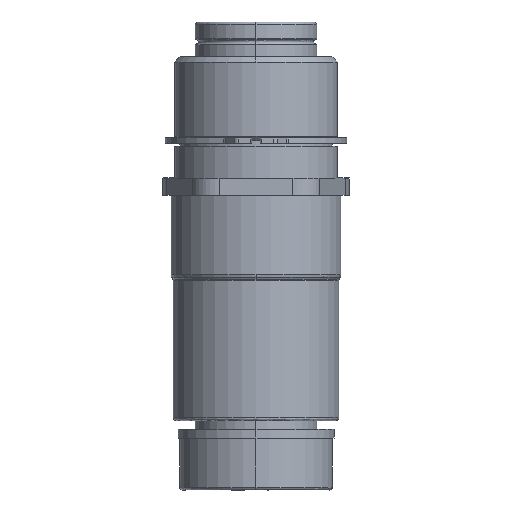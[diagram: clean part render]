
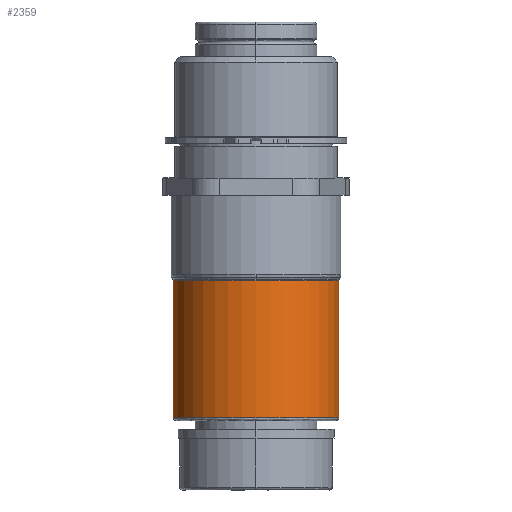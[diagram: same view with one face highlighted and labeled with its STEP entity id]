
A CAD part, left-side view. The second image highlights one B-rep face of the part: STEP entity #2359.
In plain terms, the highlighted cylindrical face has radius 30.353 mm (diameter 60.706 mm), a partial arc.
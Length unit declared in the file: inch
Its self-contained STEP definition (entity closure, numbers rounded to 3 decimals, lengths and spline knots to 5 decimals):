
#35 = CARTESIAN_POINT ( 'NONE',  ( 0., -3.21, 0. ) ) ;
#48 = DIRECTION ( 'NONE',  ( 0., 0., 1. ) ) ;
#52 = ORIENTED_EDGE ( 'NONE', *, *, #4562, .T. ) ;
#241 = CIRCLE ( 'NONE', #3551, 1.195 ) ;
#272 = DIRECTION ( 'NONE',  ( 0., 0., 1. ) ) ;
#438 = DIRECTION ( 'NONE',  ( 0., 1., 0. ) ) ;
#451 = EDGE_CURVE ( 'NONE', #1732, #3844, #3577, .T. ) ;
#792 = CARTESIAN_POINT ( 'NONE',  ( 0., -3.25, 0. ) ) ;
#850 = DIRECTION ( 'NONE',  ( 0., 1., 0. ) ) ;
#915 = VERTEX_POINT ( 'NONE', #4768 ) ;
#943 = LINE ( 'NONE', #1212, #3651 ) ;
#1052 = ORIENTED_EDGE ( 'NONE', *, *, #1263, .F. ) ;
#1077 = VECTOR ( 'NONE', #850, 39.37008 ) ;
#1105 = ORIENTED_EDGE ( 'NONE', *, *, #3089, .T. ) ;
#1212 = CARTESIAN_POINT ( 'NONE',  ( 0., -3.25, 1.195 ) ) ;
#1263 = EDGE_CURVE ( 'NONE', #915, #3844, #2428, .T. ) ;
#1471 = CIRCLE ( 'NONE', #2955, 1.195 ) ;
#1574 = DIRECTION ( 'NONE',  ( 0., 0., -1. ) ) ;
#1682 = AXIS2_PLACEMENT_3D ( 'NONE', #3988, #4056, #272 ) ;
#1732 = VERTEX_POINT ( 'NONE', #3501 ) ;
#1945 = EDGE_CURVE ( 'NONE', #4206, #915, #241, .T. ) ;
#2149 = VERTEX_POINT ( 'NONE', #3545 ) ;
#2317 = FACE_OUTER_BOUND ( 'NONE', #3619, .T. ) ;
#2359 = ADVANCED_FACE ( 'NONE', ( #2317 ), #4554, .T. ) ;
#2428 = LINE ( 'NONE', #3505, #1077 ) ;
#2878 = CARTESIAN_POINT ( 'NONE',  ( 0., -1.225, -1.195 ) ) ;
#2952 = DIRECTION ( 'NONE',  ( 0., 0., 1. ) ) ;
#2955 = AXIS2_PLACEMENT_3D ( 'NONE', #4140, #4869, #2952 ) ;
#2956 = AXIS2_PLACEMENT_3D ( 'NONE', #792, #438, #48 ) ;
#3089 = EDGE_CURVE ( 'NONE', #2149, #1732, #1471, .T. ) ;
#3099 = DIRECTION ( 'NONE',  ( 0., -1., 0. ) ) ;
#3463 = DIRECTION ( 'NONE',  ( 0., 1., 0. ) ) ;
#3501 = CARTESIAN_POINT ( 'NONE',  ( -1.195, -1.225, 0. ) ) ;
#3505 = CARTESIAN_POINT ( 'NONE',  ( 0., -3.25, -1.195 ) ) ;
#3545 = CARTESIAN_POINT ( 'NONE',  ( 0., -1.225, 1.195 ) ) ;
#3551 = AXIS2_PLACEMENT_3D ( 'NONE', #35, #3099, #1574 ) ;
#3574 = ORIENTED_EDGE ( 'NONE', *, *, #1945, .F. ) ;
#3577 = CIRCLE ( 'NONE', #1682, 1.195 ) ;
#3619 = EDGE_LOOP ( 'NONE', ( #1052, #3574, #52, #1105, #4909 ) ) ;
#3651 = VECTOR ( 'NONE', #3463, 39.37008 ) ;
#3844 = VERTEX_POINT ( 'NONE', #2878 ) ;
#3988 = CARTESIAN_POINT ( 'NONE',  ( 0., -1.225, 0. ) ) ;
#4044 = CARTESIAN_POINT ( 'NONE',  ( 0., -3.21, 1.195 ) ) ;
#4056 = DIRECTION ( 'NONE',  ( 0., -1., 0. ) ) ;
#4140 = CARTESIAN_POINT ( 'NONE',  ( 0., -1.225, 0. ) ) ;
#4206 = VERTEX_POINT ( 'NONE', #4044 ) ;
#4554 = CYLINDRICAL_SURFACE ( 'NONE', #2956, 1.195 ) ;
#4562 = EDGE_CURVE ( 'NONE', #4206, #2149, #943, .T. ) ;
#4768 = CARTESIAN_POINT ( 'NONE',  ( 0., -3.21, -1.195 ) ) ;
#4869 = DIRECTION ( 'NONE',  ( 0., -1., 0. ) ) ;
#4909 = ORIENTED_EDGE ( 'NONE', *, *, #451, .T. ) ;
